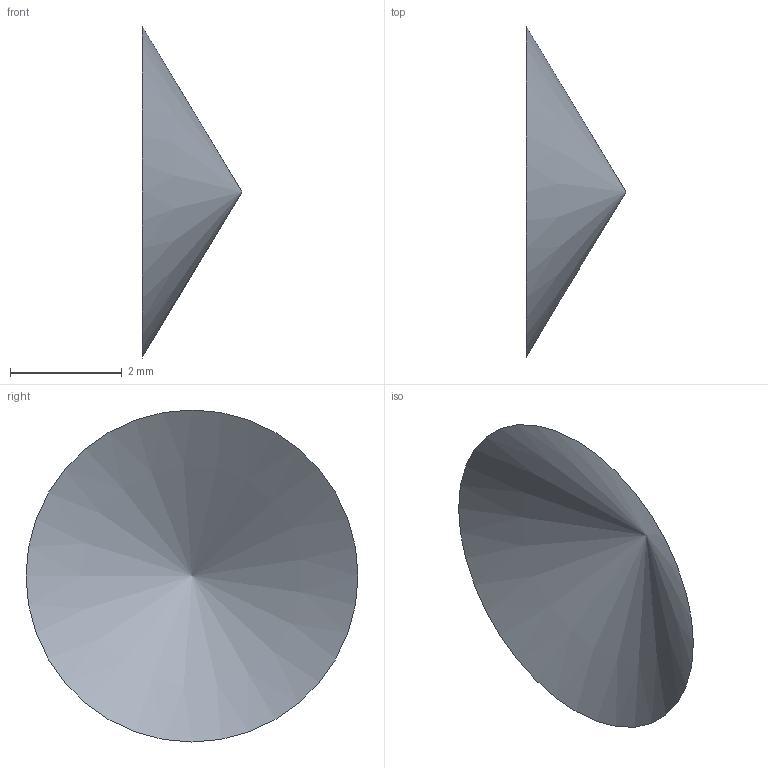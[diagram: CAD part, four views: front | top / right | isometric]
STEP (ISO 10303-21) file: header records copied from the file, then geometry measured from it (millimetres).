
FILE_DESCRIPTION(('BRL-CAD AP203 conical multi-edge periodic cap regression fixture'),'2;1');
FILE_NAME('ap203_conical_multi_edge_periodic_cap.stp','2026-07-24T00:00:00',('BRL-CAD'),('BRL-CAD'),'','','');
FILE_SCHEMA(('CONFIG_CONTROL_DESIGN'));
Length unit declared in the file: millimetre
Products named in the file (1): conical_multi_edge_periodic_cap
Bounding box: 1.79 x 5.95 x 5.95 mm (x, y, z)
Surface area: 32.4 mm2 (no closed solid volume)
Topology: 0 solids, 1 shells, 1 faces, 4 edges, 3 vertices
Faces by surface type: cone 1
Entity records: 48 total; most frequent: DIRECTION 7, CARTESIAN_POINT 7, ORIENTED_EDGE 4, VERTEX_POINT 3, EDGE_CURVE 3, AXIS2_PLACEMENT_3D 3, CIRCLE 2, FACE_OUTER_BOUND 1
